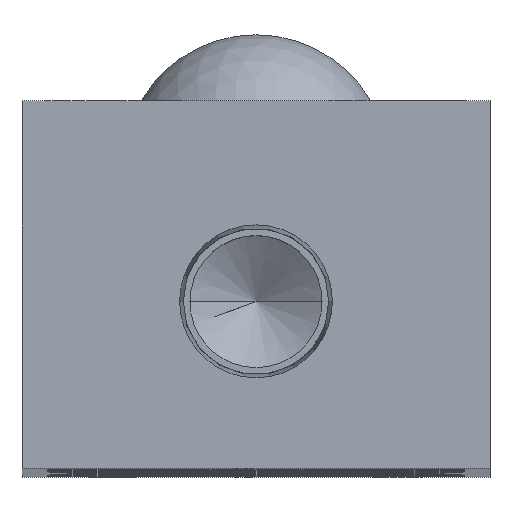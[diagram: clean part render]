
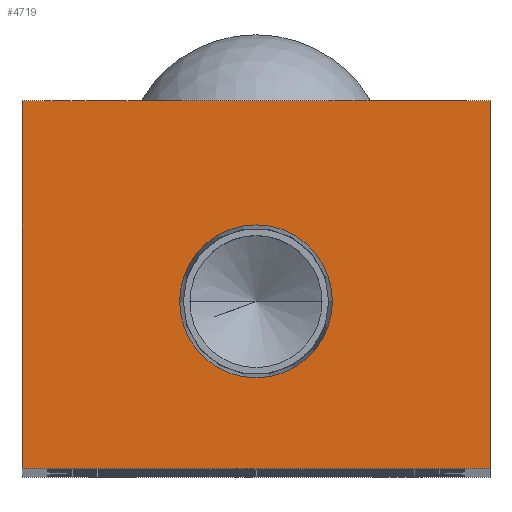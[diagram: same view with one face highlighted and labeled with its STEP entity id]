
A CAD part, top view. The second image highlights one B-rep face of the part: STEP entity #4719.
In plain terms, the highlighted planar face has unit normal (0, 0, 1).
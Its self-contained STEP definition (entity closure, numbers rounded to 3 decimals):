
#8 = VERTEX_POINT ( 'NONE', #7661 ) ;
#36 = ORIENTED_EDGE ( 'NONE', *, *, #8460, .T. ) ;
#135 = CARTESIAN_POINT ( 'NONE',  ( -14., 0., 0. ) ) ;
#224 = VECTOR ( 'NONE', #6579, 1000. ) ;
#288 = DIRECTION ( 'NONE',  ( 0., 0., 1. ) ) ;
#336 = CARTESIAN_POINT ( 'NONE',  ( -14., 0., 0. ) ) ;
#416 = VERTEX_POINT ( 'NONE', #1197 ) ;
#418 = ORIENTED_EDGE ( 'NONE', *, *, #4661, .F. ) ;
#421 = FACE_OUTER_BOUND ( 'NONE', #4513, .T. ) ;
#456 = DIRECTION ( 'NONE',  ( -1., 0., 0. ) ) ;
#689 = ORIENTED_EDGE ( 'NONE', *, *, #3194, .T. ) ;
#1197 = CARTESIAN_POINT ( 'NONE',  ( 14., 0., 0. ) ) ;
#1242 = CIRCLE ( 'NONE', #8461, 4.574 ) ;
#1505 = VERTEX_POINT ( 'NONE', #4450 ) ;
#1673 = VECTOR ( 'NONE', #5418, 1000. ) ;
#1981 = CARTESIAN_POINT ( 'NONE',  ( -14., 22., 0. ) ) ;
#2028 = CARTESIAN_POINT ( 'NONE',  ( 14., 22., 0. ) ) ;
#2136 = LINE ( 'NONE', #135, #224 ) ;
#2561 = LINE ( 'NONE', #336, #4452 ) ;
#2564 = CIRCLE ( 'NONE', #7792, 4.574 ) ;
#2820 = AXIS2_PLACEMENT_3D ( 'NONE', #6050, #3955, #8969 ) ;
#2824 = EDGE_CURVE ( 'NONE', #416, #2964, #3579, .T. ) ;
#2964 = VERTEX_POINT ( 'NONE', #2028 ) ;
#3149 = DIRECTION ( 'NONE',  ( 0., 0., 1. ) ) ;
#3194 = EDGE_CURVE ( 'NONE', #1505, #416, #2561, .T. ) ;
#3579 = LINE ( 'NONE', #6106, #1673 ) ;
#3722 = CARTESIAN_POINT ( 'NONE',  ( -4.574, 10., 0. ) ) ;
#3787 = FACE_BOUND ( 'NONE', #8754, .T. ) ;
#3890 = VECTOR ( 'NONE', #456, 1000. ) ;
#3955 = DIRECTION ( 'NONE',  ( 0., 0., -1. ) ) ;
#4399 = ORIENTED_EDGE ( 'NONE', *, *, #5069, .T. ) ;
#4450 = CARTESIAN_POINT ( 'NONE',  ( -14., 0., 0. ) ) ;
#4452 = VECTOR ( 'NONE', #4617, 1000. ) ;
#4513 = EDGE_LOOP ( 'NONE', ( #36, #689, #6249, #4399 ) ) ;
#4578 = CARTESIAN_POINT ( 'NONE',  ( 0., 10., 0. ) ) ;
#4617 = DIRECTION ( 'NONE',  ( 1., 0., 0. ) ) ;
#4661 = EDGE_CURVE ( 'NONE', #5822, #8, #2564, .T. ) ;
#4719 = ADVANCED_FACE ( 'NONE', ( #3787, #421 ), #8249, .F. ) ;
#5069 = EDGE_CURVE ( 'NONE', #2964, #8816, #7711, .T. ) ;
#5292 = DIRECTION ( 'NONE',  ( 1., 0., 0. ) ) ;
#5418 = DIRECTION ( 'NONE',  ( 0., 1., 0. ) ) ;
#5822 = VERTEX_POINT ( 'NONE', #3722 ) ;
#6050 = CARTESIAN_POINT ( 'NONE',  ( 0., 0., 0. ) ) ;
#6106 = CARTESIAN_POINT ( 'NONE',  ( 14., 0., 0. ) ) ;
#6249 = ORIENTED_EDGE ( 'NONE', *, *, #2824, .T. ) ;
#6579 = DIRECTION ( 'NONE',  ( 0., -1., 0. ) ) ;
#6872 = CARTESIAN_POINT ( 'NONE',  ( -14., 22., 0. ) ) ;
#7425 = CARTESIAN_POINT ( 'NONE',  ( 0., 10., 0. ) ) ;
#7620 = ORIENTED_EDGE ( 'NONE', *, *, #8618, .F. ) ;
#7661 = CARTESIAN_POINT ( 'NONE',  ( 4.574, 10., 0. ) ) ;
#7711 = LINE ( 'NONE', #6872, #3890 ) ;
#7792 = AXIS2_PLACEMENT_3D ( 'NONE', #4578, #288, #5292 ) ;
#8156 = DIRECTION ( 'NONE',  ( 1., 0., 0. ) ) ;
#8249 = PLANE ( 'NONE',  #2820 ) ;
#8460 = EDGE_CURVE ( 'NONE', #8816, #1505, #2136, .T. ) ;
#8461 = AXIS2_PLACEMENT_3D ( 'NONE', #7425, #3149, #8156 ) ;
#8618 = EDGE_CURVE ( 'NONE', #8, #5822, #1242, .T. ) ;
#8754 = EDGE_LOOP ( 'NONE', ( #7620, #418 ) ) ;
#8816 = VERTEX_POINT ( 'NONE', #1981 ) ;
#8969 = DIRECTION ( 'NONE',  ( -1., 0., 0. ) ) ;
